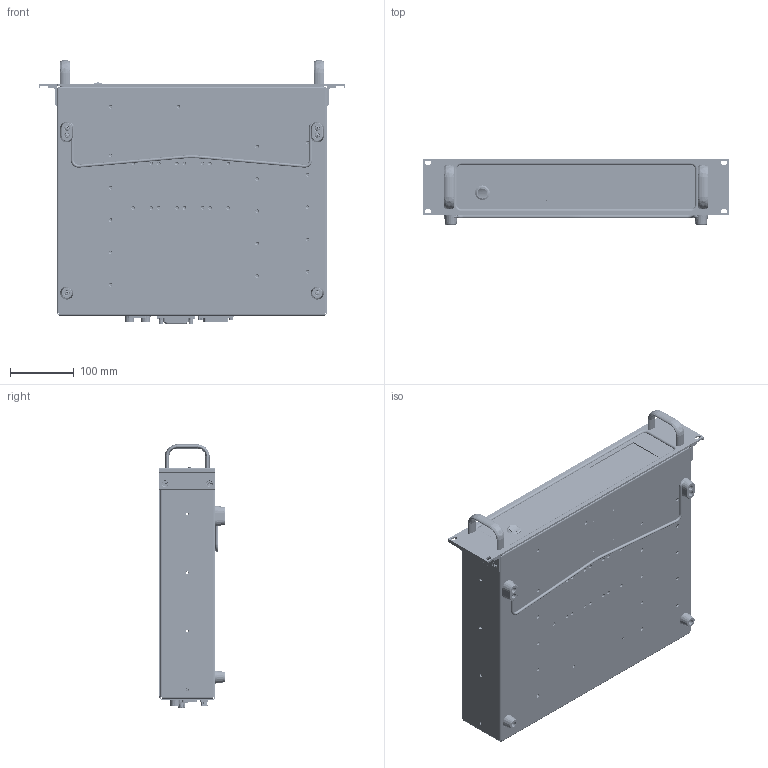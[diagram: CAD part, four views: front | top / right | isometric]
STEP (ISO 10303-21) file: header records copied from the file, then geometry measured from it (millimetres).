
FILE_DESCRIPTION (( 'STEP AP214' ), '1' );
FILE_NAME ('319-002-627_NC.STEP', '2019-08-30T21:14:22', ( '' ), ( '' ), 'SwSTEP 2.0', 'SolidWorks 2015', '' );
FILE_SCHEMA (( 'AUTOMOTIVE_DESIGN' ));
Length unit declared in the file: inch
Products named in the file (2): 319-002-627_NC
Bounding box: 481.33 x 103.12 x 414.63 mm (x, y, z)
Volume: 950128.2 mm3; surface area: 1158386.5 mm2
Topology: 118 solids, 118 shells, 11924 faces, 30844 edges, 20056 vertices
Faces by surface type: plane 6265, cylinder 3067, bspline 1682, cone 814, torus 80, sphere 16
Entity records: 584463 total; most frequent: CARTESIAN_POINT 139144, ORIENTED_EDGE 61644, DIRECTION 55220, EDGE_CURVE 30822, VERTEX_POINT 20056, LINE 19796, VECTOR 19796, AXIS2_PLACEMENT_3D 17712
